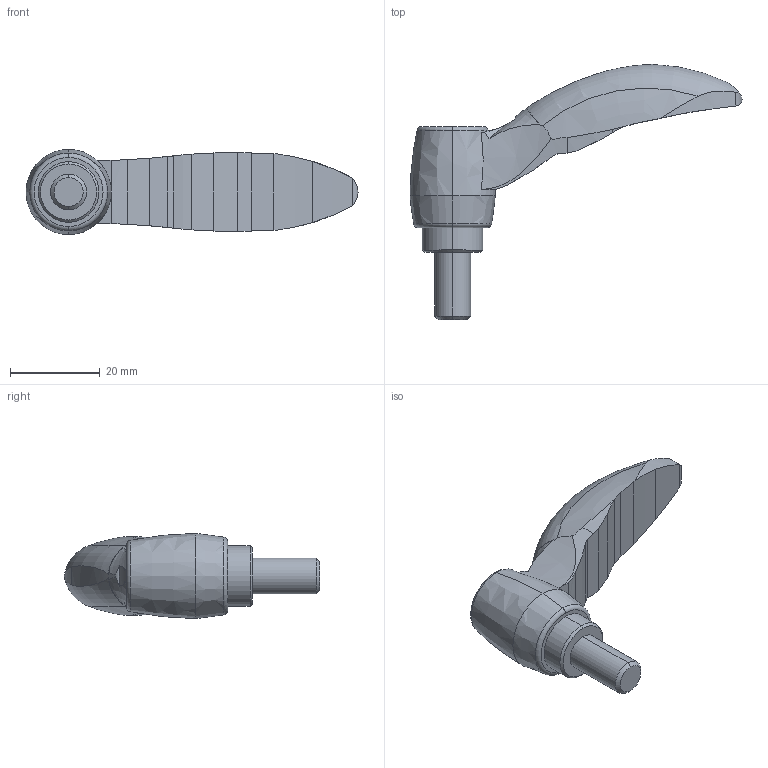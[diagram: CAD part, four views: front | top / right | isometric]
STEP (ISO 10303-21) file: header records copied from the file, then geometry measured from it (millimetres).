
FILE_DESCRIPTION (( 'STEP AP214' ), '1' );
FILE_NAME ('Klemhendel.STEP', '2019-09-09T07:45:10', ( '' ), ( '' ), 'SwSTEP 2.0', 'SolidWorks 2018', '' );
FILE_SCHEMA (( 'AUTOMOTIVE_DESIGN' ));
Length unit declared in the file: millimetre
Products named in the file (1): Klemhendel
Bounding box: 74 x 56.88 x 18.99 mm (x, y, z)
Volume: 15764.7 mm3; surface area: 4906 mm2
Topology: 1 solids, 1 shells, 71 faces, 186 edges, 120 vertices
Faces by surface type: cylinder 36, plane 13, torus 10, cone 6, bspline 6
Entity records: 2656 total; most frequent: CARTESIAN_POINT 1001, ORIENTED_EDGE 372, DIRECTION 264, EDGE_CURVE 186, VERTEX_POINT 120, AXIS2_PLACEMENT_3D 113, B_SPLINE_CURVE_WITH_KNOTS 89, EDGE_LOOP 74
